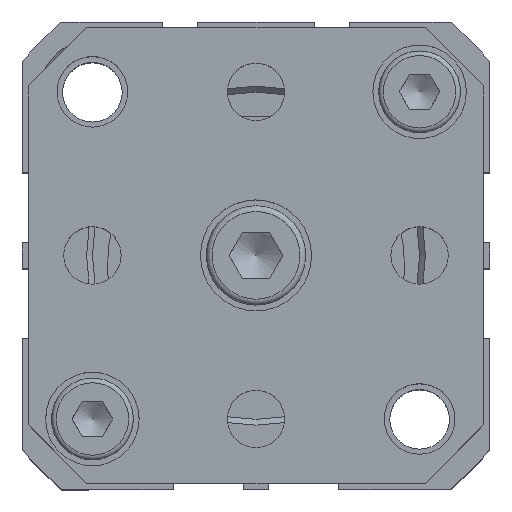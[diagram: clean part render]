
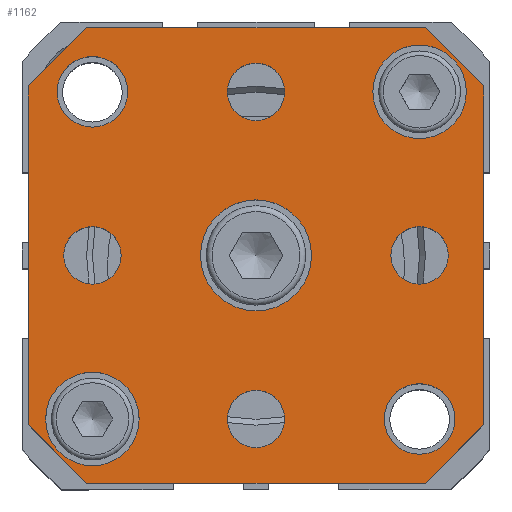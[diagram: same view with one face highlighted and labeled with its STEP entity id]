
A CAD part, top view. The second image highlights one B-rep face of the part: STEP entity #1162.
In plain terms, the highlighted planar face has unit normal (0, 0, 1).
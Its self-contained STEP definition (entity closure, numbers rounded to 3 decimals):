
#464=CARTESIAN_POINT('',(-12.524,-11.716,45.2));
#465=VERTEX_POINT('',#464);
#466=CARTESIAN_POINT('',(-16.524,-11.716,45.2));
#467=DIRECTION('',(0.0,0.0,-1.0));
#468=DIRECTION('',(1.0,0.0,0.0));
#469=AXIS2_PLACEMENT_3D('',#466,#467,#468);
#470=CIRCLE('',#469,4.0);
#471=EDGE_CURVE('',#465,#465,#470,.T.);
#566=CARTESIAN_POINT('',(15.476,16.284,45.2));
#567=VERTEX_POINT('',#566);
#568=CARTESIAN_POINT('',(11.476,16.284,45.2));
#569=DIRECTION('',(0.0,0.0,-1.0));
#570=DIRECTION('',(1.0,0.0,0.0));
#571=AXIS2_PLACEMENT_3D('',#568,#569,#570);
#572=CIRCLE('',#571,4.0);
#573=EDGE_CURVE('',#567,#567,#572,.T.);
#651=CARTESIAN_POINT('',(13.934,2.284,45.2));
#652=VERTEX_POINT('',#651);
#653=CARTESIAN_POINT('',(11.476,2.284,45.2));
#654=DIRECTION('',(0.0,0.0,-1.0));
#655=DIRECTION('',(1.0,0.0,0.0));
#656=AXIS2_PLACEMENT_3D('',#653,#654,#655);
#657=CIRCLE('',#656,2.459);
#658=EDGE_CURVE('',#652,#652,#657,.T.);
#692=CARTESIAN_POINT('',(-0.066,-11.716,45.2));
#693=VERTEX_POINT('',#692);
#694=CARTESIAN_POINT('',(-2.524,-11.716,45.2));
#695=DIRECTION('',(0.0,0.0,-1.0));
#696=DIRECTION('',(1.0,0.0,0.0));
#697=AXIS2_PLACEMENT_3D('',#694,#695,#696);
#698=CIRCLE('',#697,2.459);
#699=EDGE_CURVE('',#693,#693,#698,.T.);
#733=CARTESIAN_POINT('',(-14.066,2.284,45.2));
#734=VERTEX_POINT('',#733);
#735=CARTESIAN_POINT('',(-16.524,2.284,45.2));
#736=DIRECTION('',(0.0,0.0,-1.0));
#737=DIRECTION('',(1.0,0.0,0.0));
#738=AXIS2_PLACEMENT_3D('',#735,#736,#737);
#739=CIRCLE('',#738,2.459);
#740=EDGE_CURVE('',#734,#734,#739,.T.);
#774=CARTESIAN_POINT('',(-0.066,16.284,45.2));
#775=VERTEX_POINT('',#774);
#776=CARTESIAN_POINT('',(-2.524,16.284,45.2));
#777=DIRECTION('',(0.0,0.0,-1.0));
#778=DIRECTION('',(1.0,0.0,0.0));
#779=AXIS2_PLACEMENT_3D('',#776,#777,#778);
#780=CIRCLE('',#779,2.459);
#781=EDGE_CURVE('',#775,#775,#780,.T.);
#840=CARTESIAN_POINT('',(2.226,2.284,45.2));
#841=VERTEX_POINT('',#840);
#842=CARTESIAN_POINT('',(-2.524,2.284,45.2));
#843=DIRECTION('',(0.0,0.0,-1.0));
#844=DIRECTION('',(1.0,0.0,0.0));
#845=AXIS2_PLACEMENT_3D('',#842,#843,#844);
#846=CIRCLE('',#845,4.75);
#847=EDGE_CURVE('',#841,#841,#846,.T.);
#893=CARTESIAN_POINT('',(14.495,-11.716,45.2));
#894=VERTEX_POINT('',#893);
#895=CARTESIAN_POINT('',(11.476,-11.716,45.2));
#896=DIRECTION('',(0.0,0.0,-1.0));
#897=DIRECTION('',(-1.0,0.0,0.0));
#898=AXIS2_PLACEMENT_3D('',#895,#896,#897);
#899=CIRCLE('',#898,3.019);
#900=EDGE_CURVE('',#894,#894,#899,.T.);
#913=CARTESIAN_POINT('',(-13.505,16.284,45.2));
#914=VERTEX_POINT('',#913);
#915=CARTESIAN_POINT('',(-16.524,16.284,45.2));
#916=DIRECTION('',(0.0,0.0,-1.0));
#917=DIRECTION('',(-1.0,0.0,0.0));
#918=AXIS2_PLACEMENT_3D('',#915,#916,#917);
#919=CIRCLE('',#918,3.019);
#920=EDGE_CURVE('',#914,#914,#919,.T.);
#933=CARTESIAN_POINT('',(-17.024,21.784,45.2));
#934=VERTEX_POINT('',#933);
#935=CARTESIAN_POINT('',(11.976,21.784,45.2));
#936=VERTEX_POINT('',#935);
#937=CARTESIAN_POINT('',(-17.024,21.784,45.2));
#938=DIRECTION('',(1.0,0.0,0.0));
#939=VECTOR('',#938,29.);
#940=LINE('',#937,#939);
#941=EDGE_CURVE('',#934,#936,#940,.T.);
#964=CARTESIAN_POINT('',(16.976,16.784,45.2));
#965=VERTEX_POINT('',#964);
#966=CARTESIAN_POINT('',(11.976,21.784,45.2));
#967=DIRECTION('',(0.707,-0.707,0.0));
#968=VECTOR('',#967,7.071);
#969=LINE('',#966,#968);
#970=EDGE_CURVE('',#936,#965,#969,.T.);
#988=CARTESIAN_POINT('',(16.976,-12.216,45.2));
#989=VERTEX_POINT('',#988);
#990=CARTESIAN_POINT('',(16.976,16.784,45.2));
#991=DIRECTION('',(0.0,-1.0,0.0));
#992=VECTOR('',#991,29.);
#993=LINE('',#990,#992);
#994=EDGE_CURVE('',#965,#989,#993,.T.);
#1012=CARTESIAN_POINT('',(11.976,-17.216,45.2));
#1013=VERTEX_POINT('',#1012);
#1014=CARTESIAN_POINT('',(16.976,-12.216,45.2));
#1015=DIRECTION('',(-0.707,-0.707,0.0));
#1016=VECTOR('',#1015,7.071);
#1017=LINE('',#1014,#1016);
#1018=EDGE_CURVE('',#989,#1013,#1017,.T.);
#1036=CARTESIAN_POINT('',(-17.024,-17.216,45.2));
#1037=VERTEX_POINT('',#1036);
#1038=CARTESIAN_POINT('',(11.976,-17.216,45.2));
#1039=DIRECTION('',(-1.0,0.0,0.0));
#1040=VECTOR('',#1039,29.);
#1041=LINE('',#1038,#1040);
#1042=EDGE_CURVE('',#1013,#1037,#1041,.T.);
#1060=CARTESIAN_POINT('',(-22.024,-12.216,45.2));
#1061=VERTEX_POINT('',#1060);
#1062=CARTESIAN_POINT('',(-17.024,-17.216,45.2));
#1063=DIRECTION('',(-0.707,0.707,0.0));
#1064=VECTOR('',#1063,7.071);
#1065=LINE('',#1062,#1064);
#1066=EDGE_CURVE('',#1037,#1061,#1065,.T.);
#1084=CARTESIAN_POINT('',(-22.024,16.784,45.2));
#1085=VERTEX_POINT('',#1084);
#1086=CARTESIAN_POINT('',(-22.024,-12.216,45.2));
#1087=DIRECTION('',(0.0,1.0,0.0));
#1088=VECTOR('',#1087,29.);
#1089=LINE('',#1086,#1088);
#1090=EDGE_CURVE('',#1061,#1085,#1089,.T.);
#1108=CARTESIAN_POINT('',(-22.024,16.784,45.2));
#1109=DIRECTION('',(0.707,0.707,0.0));
#1110=VECTOR('',#1109,7.071);
#1111=LINE('',#1108,#1110);
#1112=EDGE_CURVE('',#1085,#934,#1111,.T.);
#1120=CARTESIAN_POINT('',(-2.524,2.284,45.2));
#1121=DIRECTION('',(0.0,0.0,1.0));
#1122=DIRECTION('',(1.0,0.0,0.0));
#1123=AXIS2_PLACEMENT_3D('',#1120,#1121,#1122);
#1124=PLANE('',#1123);
#1125=ORIENTED_EDGE('',*,*,#941,.F.);
#1126=ORIENTED_EDGE('',*,*,#1112,.F.);
#1127=ORIENTED_EDGE('',*,*,#1090,.F.);
#1128=ORIENTED_EDGE('',*,*,#1066,.F.);
#1129=ORIENTED_EDGE('',*,*,#1042,.F.);
#1130=ORIENTED_EDGE('',*,*,#1018,.F.);
#1131=ORIENTED_EDGE('',*,*,#994,.F.);
#1132=ORIENTED_EDGE('',*,*,#970,.F.);
#1133=EDGE_LOOP('',(#1125,#1126,#1127,#1128,#1129,#1130,#1131,#1132));
#1134=FACE_OUTER_BOUND('',#1133,.T.);
#1135=ORIENTED_EDGE('',*,*,#471,.T.);
#1136=EDGE_LOOP('',(#1135));
#1137=FACE_BOUND('',#1136,.T.);
#1138=ORIENTED_EDGE('',*,*,#573,.T.);
#1139=EDGE_LOOP('',(#1138));
#1140=FACE_BOUND('',#1139,.T.);
#1141=ORIENTED_EDGE('',*,*,#658,.T.);
#1142=EDGE_LOOP('',(#1141));
#1143=FACE_BOUND('',#1142,.T.);
#1144=ORIENTED_EDGE('',*,*,#699,.T.);
#1145=EDGE_LOOP('',(#1144));
#1146=FACE_BOUND('',#1145,.T.);
#1147=ORIENTED_EDGE('',*,*,#740,.T.);
#1148=EDGE_LOOP('',(#1147));
#1149=FACE_BOUND('',#1148,.T.);
#1150=ORIENTED_EDGE('',*,*,#781,.T.);
#1151=EDGE_LOOP('',(#1150));
#1152=FACE_BOUND('',#1151,.T.);
#1153=ORIENTED_EDGE('',*,*,#847,.T.);
#1154=EDGE_LOOP('',(#1153));
#1155=FACE_BOUND('',#1154,.T.);
#1156=ORIENTED_EDGE('',*,*,#900,.T.);
#1157=EDGE_LOOP('',(#1156));
#1158=FACE_BOUND('',#1157,.T.);
#1159=ORIENTED_EDGE('',*,*,#920,.T.);
#1160=EDGE_LOOP('',(#1159));
#1161=FACE_BOUND('',#1160,.T.);
#1162=ADVANCED_FACE('',(#1134,#1137,#1140,#1143,#1146,#1149,#1152,#1155,#1158,#1161),#1124,.T.);
